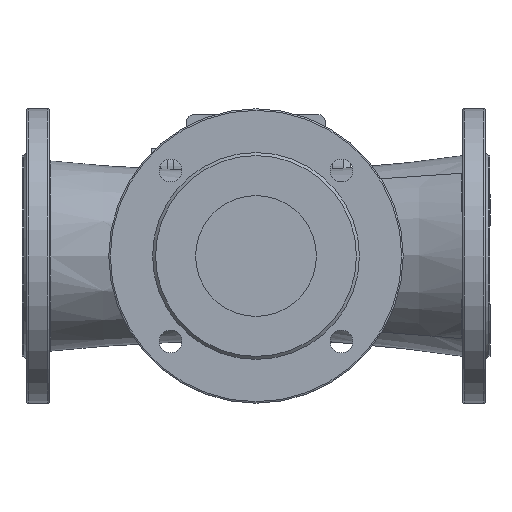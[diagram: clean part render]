
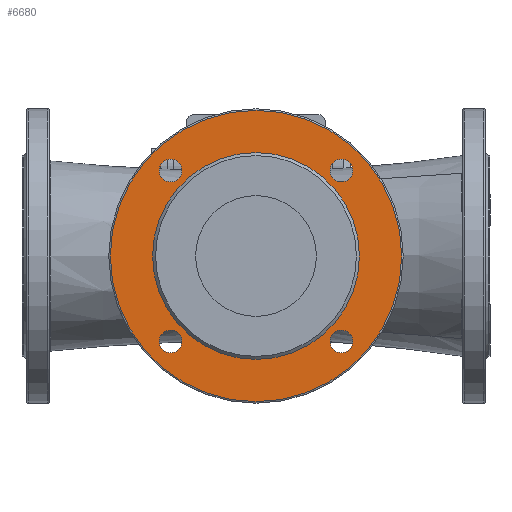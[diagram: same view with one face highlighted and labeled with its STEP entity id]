
A CAD part, front view. The second image highlights one B-rep face of the part: STEP entity #6680.
In plain terms, the highlighted planar face has unit normal (0, -1, 0).
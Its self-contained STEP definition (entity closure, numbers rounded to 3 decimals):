
#1333=PLANE('',#7437);
#1459=FACE_BOUND('',#2404,.T.);
#1460=FACE_BOUND('',#2405,.T.);
#1461=FACE_BOUND('',#2406,.T.);
#1462=FACE_BOUND('',#2407,.T.);
#1463=FACE_BOUND('',#2408,.T.);
#1878=FACE_OUTER_BOUND('',#2403,.T.);
#2403=EDGE_LOOP('',(#6084));
#2404=EDGE_LOOP('',(#6085));
#2405=EDGE_LOOP('',(#6086));
#2406=EDGE_LOOP('',(#6087));
#2407=EDGE_LOOP('',(#6088));
#2408=EDGE_LOOP('',(#6089));
#2753=CIRCLE('',#7375,7.5);
#2755=CIRCLE('',#7378,7.5);
#2757=CIRCLE('',#7381,7.5);
#2759=CIRCLE('',#7384,7.5);
#2789=CIRCLE('',#7436,68.5);
#2790=CIRCLE('',#7438,96.5);
#3365=VERTEX_POINT('',#11553);
#3367=VERTEX_POINT('',#11558);
#3369=VERTEX_POINT('',#11563);
#3371=VERTEX_POINT('',#11568);
#3416=VERTEX_POINT('',#12897);
#3417=VERTEX_POINT('',#12900);
#4266=EDGE_CURVE('',#3365,#3365,#2753,.T.);
#4268=EDGE_CURVE('',#3367,#3367,#2755,.T.);
#4270=EDGE_CURVE('',#3369,#3369,#2757,.T.);
#4272=EDGE_CURVE('',#3371,#3371,#2759,.T.);
#4322=EDGE_CURVE('',#3416,#3416,#2789,.T.);
#4323=EDGE_CURVE('',#3417,#3417,#2790,.T.);
#6084=ORIENTED_EDGE('',*,*,#4323,.F.);
#6085=ORIENTED_EDGE('',*,*,#4266,.T.);
#6086=ORIENTED_EDGE('',*,*,#4268,.T.);
#6087=ORIENTED_EDGE('',*,*,#4270,.T.);
#6088=ORIENTED_EDGE('',*,*,#4272,.T.);
#6089=ORIENTED_EDGE('',*,*,#4322,.F.);
#6680=ADVANCED_FACE('',(#1878,#1459,#1460,#1461,#1462,#1463),#1333,.T.);
#7375=AXIS2_PLACEMENT_3D('',#11554,#9293,#9294);
#7378=AXIS2_PLACEMENT_3D('',#11559,#9299,#9300);
#7381=AXIS2_PLACEMENT_3D('',#11564,#9305,#9306);
#7384=AXIS2_PLACEMENT_3D('',#11569,#9311,#9312);
#7436=AXIS2_PLACEMENT_3D('',#12898,#9416,#9417);
#7437=AXIS2_PLACEMENT_3D('',#12899,#9418,#9419);
#7438=AXIS2_PLACEMENT_3D('',#12901,#9420,#9421);
#9293=DIRECTION('center_axis',(0.,1.,0.));
#9294=DIRECTION('ref_axis',(-0.581,0.,0.814));
#9299=DIRECTION('center_axis',(0.,1.,0.));
#9300=DIRECTION('ref_axis',(-0.814,0.,-0.581));
#9305=DIRECTION('center_axis',(0.,1.,0.));
#9306=DIRECTION('ref_axis',(0.581,0.,-0.814));
#9311=DIRECTION('center_axis',(0.,1.,0.));
#9312=DIRECTION('ref_axis',(0.814,0.,0.581));
#9416=DIRECTION('center_axis',(0.,-1.,0.));
#9417=DIRECTION('ref_axis',(0.814,0.,-0.581));
#9418=DIRECTION('center_axis',(0.,-1.,0.));
#9419=DIRECTION('ref_axis',(0.,0.,-1.));
#9420=DIRECTION('center_axis',(0.,1.,0.));
#9421=DIRECTION('ref_axis',(0.,0.,-1.));
#11553=CARTESIAN_POINT('',(1565.485,1437.497,874.069));
#11554=CARTESIAN_POINT('Origin',(1565.485,1437.497,866.569));
#11558=CARTESIAN_POINT('',(1557.985,1437.497,753.431));
#11559=CARTESIAN_POINT('Origin',(1565.485,1437.497,753.431));
#11563=CARTESIAN_POINT('',(1678.622,1437.497,745.931));
#11564=CARTESIAN_POINT('Origin',(1678.622,1437.497,753.431));
#11568=CARTESIAN_POINT('',(1686.122,1437.497,866.569));
#11569=CARTESIAN_POINT('Origin',(1678.622,1437.497,866.569));
#12897=CARTESIAN_POINT('',(1690.554,1437.497,810.));
#12898=CARTESIAN_POINT('Origin',(1622.054,1437.497,810.));
#12899=CARTESIAN_POINT('Origin',(1525.554,1437.497,810.));
#12900=CARTESIAN_POINT('',(1718.554,1437.497,810.));
#12901=CARTESIAN_POINT('Origin',(1622.054,1437.497,810.));
